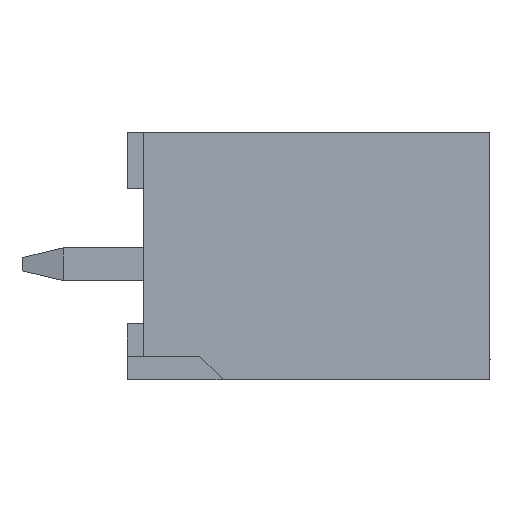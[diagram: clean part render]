
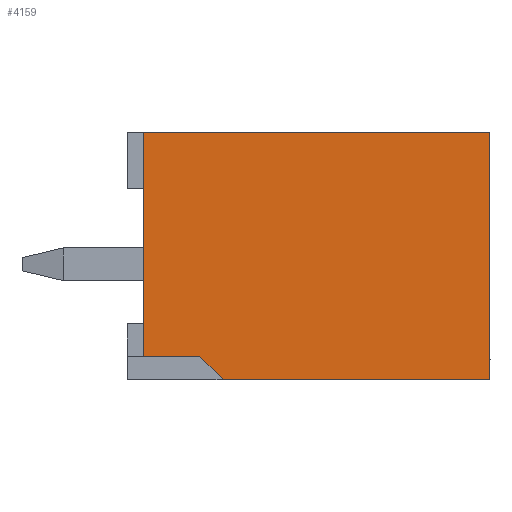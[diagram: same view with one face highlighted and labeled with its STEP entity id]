
A CAD part, left-side view. The second image highlights one B-rep face of the part: STEP entity #4159.
In plain terms, the highlighted planar face has unit normal (-1, 0, 0).
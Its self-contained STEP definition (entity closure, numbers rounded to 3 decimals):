
#621=DIRECTION('',(0.,0.707,0.707));
#622=VECTOR('',#621,0.99);
#623=CARTESIAN_POINT('',(16.35,8.137,-7.5));
#624=LINE('',#623,#622);
#625=DIRECTION('',(0.,1.,0.));
#626=VECTOR('',#625,1.7);
#627=CARTESIAN_POINT('',(16.35,8.837,-6.8));
#628=LINE('',#627,#626);
#629=DIRECTION('',(0.,0.,1.));
#630=VECTOR('',#629,6.8);
#631=CARTESIAN_POINT('',(16.35,10.537,-6.8));
#632=LINE('',#631,#630);
#633=DIRECTION('',(0.,-1.,0.));
#634=VECTOR('',#633,10.5);
#635=CARTESIAN_POINT('',(16.35,10.537,0.));
#636=LINE('',#635,#634);
#637=DIRECTION('',(0.,0.,-1.));
#638=VECTOR('',#637,7.5);
#639=CARTESIAN_POINT('',(16.35,0.037,0.));
#640=LINE('',#639,#638);
#723=DIRECTION('',(0.,-1.,0.));
#724=VECTOR('',#723,8.1);
#725=CARTESIAN_POINT('',(16.35,8.137,-7.5));
#726=LINE('',#725,#724);
#2642=CARTESIAN_POINT('',(16.35,0.037,0.));
#2643=VERTEX_POINT('',#2642);
#2712=CARTESIAN_POINT('',(16.35,0.037,-7.5));
#2714=VERTEX_POINT('',#2712);
#2770=CARTESIAN_POINT('',(16.35,8.137,-7.5));
#2771=VERTEX_POINT('',#2770);
#3183=CARTESIAN_POINT('',(16.35,10.537,-6.8));
#3184=CARTESIAN_POINT('',(16.35,10.537,0.));
#3185=VERTEX_POINT('',#3183);
#3186=VERTEX_POINT('',#3184);
#3353=CARTESIAN_POINT('',(16.35,8.837,-6.8));
#3354=VERTEX_POINT('',#3353);
#4144=CARTESIAN_POINT('',(16.35,0.037,-14.345));
#4145=DIRECTION('',(1.,0.,0.));
#4146=DIRECTION('',(0.,0.,1.));
#4147=AXIS2_PLACEMENT_3D('',#4144,#4145,#4146);
#4148=PLANE('',#4147);
#4149=ORIENTED_EDGE('',*,*,#4136,.T.);
#4150=ORIENTED_EDGE('',*,*,#3920,.T.);
#4151=ORIENTED_EDGE('',*,*,#3392,.T.);
#4152=ORIENTED_EDGE('',*,*,#3743,.T.);
#4154=ORIENTED_EDGE('',*,*,#4153,.T.);
#4156=ORIENTED_EDGE('',*,*,#4155,.F.);
#4157=EDGE_LOOP('',(#4149,#4150,#4151,#4152,#4154,#4156));
#4158=FACE_OUTER_BOUND('',#4157,.F.);
#4159=ADVANCED_FACE('',(#4158),#4148,.F.);
#3392=EDGE_CURVE('',#3185,#3186,#632,.T.);
#3743=EDGE_CURVE('',#3186,#2643,#636,.T.);
#3920=EDGE_CURVE('',#3354,#3185,#628,.T.);
#4136=EDGE_CURVE('',#2771,#3354,#624,.T.);
#4153=EDGE_CURVE('',#2643,#2714,#640,.T.);
#4155=EDGE_CURVE('',#2771,#2714,#726,.T.);
